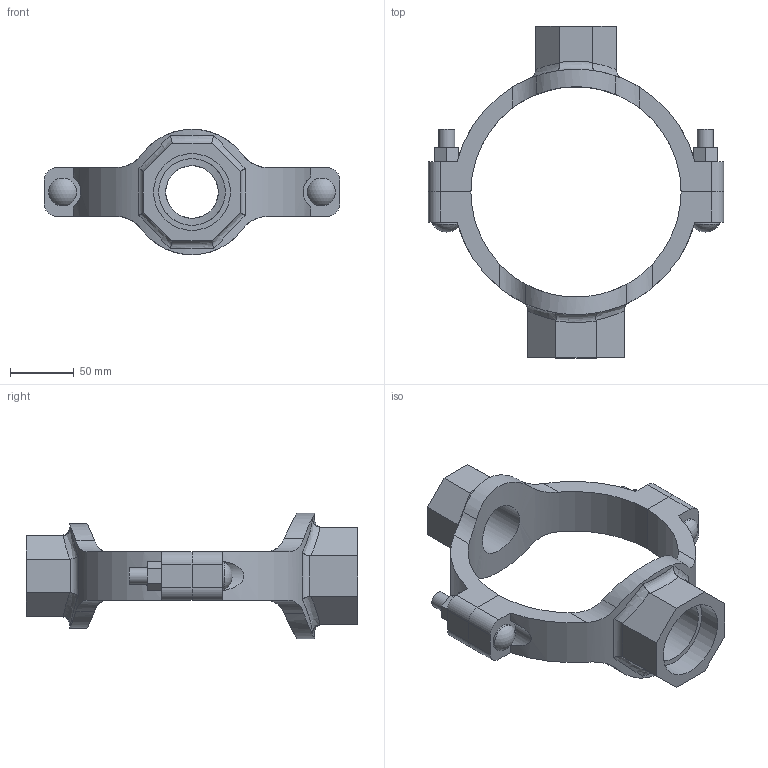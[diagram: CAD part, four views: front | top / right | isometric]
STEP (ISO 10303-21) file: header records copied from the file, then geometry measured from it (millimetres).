
FILE_DESCRIPTION(/* description */ ('VIC MECH-T BRANCH OUTLET CROSS STYLE 920N (THD)','CAx-IF Rec.Pracs.---Representation and Presentation of Product Manufacturing Information (PMI)---4.0---2014-10-13'),/* implementation_level */ '2;1');
FILE_NAME(/* name */ 'C:\Users\Vjadhav\AppData\Roaming\Autodesk\ApplicationPlugins\Back Up\Victaulic_IPS_Mechanical-Cross Outlet_Style 920N (FPT)\Victaulic_IPS_Mechanical-Cross Outlet_06.0 (165.1)x01.5x02.0 (150x40x50).stp',/* time_stamp */ '2020-08-06T18:59:56+05:00',/* author */ ('Vjadhav'),/* organization */ ('Victaulic'),/* preprocessor_version */ 'ST-DEVELOPER v17.2',/* originating_system */ 'Autodesk Inventor 2019',/* authorisation */ '');
FILE_SCHEMA (('AP242_MANAGED_MODEL_BASED_3D_ENGINEERING_MIM_LF { 1 0 10303 442 1 1 4 }'));
Length unit declared in the file: inch
Products named in the file (3): 920NT-06.0 (165.1)x01.5x02.0; 920NT-06.0 (165.1)x01.5; 920NT-06.0 (165.1)x02.0
Assembly tree (2 placements, depth 2):
  920NT-06.0 (165.1)x01.5x02.0
    920NT-06.0 (165.1)x01.5
    920NT-06.0 (165.1)x02.0
Bounding box: 231.9 x 260.6 x 98.55 mm (x, y, z)
Volume: 560666.7 mm3; surface area: 121316.1 mm2
Topology: 2 solids, 2 shells, 132 faces, 350 edges, 236 vertices
Faces by surface type: plane 68, cylinder 50, bspline 8, torus 4, sphere 2
Full cylindrical faces by diameter (mm): 12.7 x4, 21.982 x2, 41.275 x1, 48.26 x1, 52.387 x1, 60.325 x1
Entity records: 5234 total; most frequent: CARTESIAN_POINT 1721, ORIENTED_EDGE 700, DIRECTION 648, EDGE_CURVE 350, VERTEX_POINT 236, AXIS2_PLACEMENT_3D 231, LINE 186, VECTOR 186
